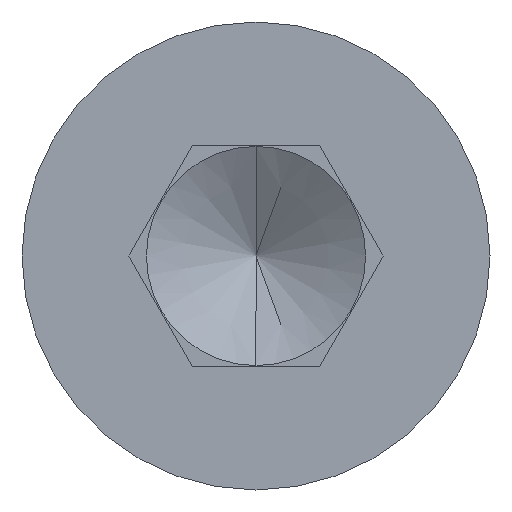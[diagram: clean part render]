
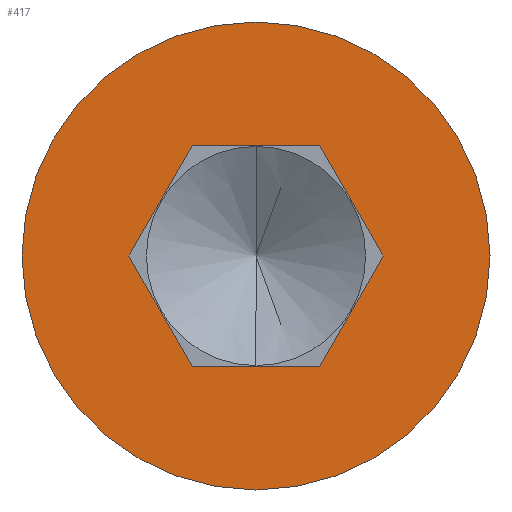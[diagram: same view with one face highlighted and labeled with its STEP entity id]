
A CAD part, left-side view. The second image highlights one B-rep face of the part: STEP entity #417.
In plain terms, the highlighted planar face has unit normal (-1, 0, 0).
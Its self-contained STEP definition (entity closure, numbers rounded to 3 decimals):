
#2 = CARTESIAN_POINT ( 'NONE',  ( -5., -1.155, 2. ) ) ;
#4 = DIRECTION ( 'NONE',  ( 0., 0.5, -0.866 ) ) ;
#5 = VERTEX_POINT ( 'NONE', #86 ) ;
#15 = CARTESIAN_POINT ( 'NONE',  ( -5., 0., 4.25 ) ) ;
#19 = DIRECTION ( 'NONE',  ( 0., -1., 0. ) ) ;
#22 = EDGE_CURVE ( 'NONE', #477, #5, #71, .T. ) ;
#44 = VERTEX_POINT ( 'NONE', #2 ) ;
#49 = ORIENTED_EDGE ( 'NONE', *, *, #538, .T. ) ;
#71 = CIRCLE ( 'NONE', #269, 4.25 ) ;
#75 = AXIS2_PLACEMENT_3D ( 'NONE', #490, #229, #527 ) ;
#86 = CARTESIAN_POINT ( 'NONE',  ( -5., 0., -4.25 ) ) ;
#95 = EDGE_CURVE ( 'NONE', #44, #123, #199, .T. ) ;
#97 = VECTOR ( 'NONE', #267, 1000. ) ;
#100 = CARTESIAN_POINT ( 'NONE',  ( -5., 1.155, -2. ) ) ;
#103 = CARTESIAN_POINT ( 'NONE',  ( -5., 1.155, 2. ) ) ;
#117 = VECTOR ( 'NONE', #150, 1000. ) ;
#118 = CARTESIAN_POINT ( 'NONE',  ( -5., 0., 0. ) ) ;
#123 = VERTEX_POINT ( 'NONE', #367 ) ;
#142 = ORIENTED_EDGE ( 'NONE', *, *, #524, .T. ) ;
#143 = PLANE ( 'NONE',  #75 ) ;
#150 = DIRECTION ( 'NONE',  ( 0., 0.5, 0.866 ) ) ;
#158 = EDGE_CURVE ( 'NONE', #5, #477, #519, .T. ) ;
#164 = DIRECTION ( 'NONE',  ( 0., 0., 1. ) ) ;
#171 = ORIENTED_EDGE ( 'NONE', *, *, #95, .T. ) ;
#177 = CARTESIAN_POINT ( 'NONE',  ( -5., 0., 0. ) ) ;
#193 = ORIENTED_EDGE ( 'NONE', *, *, #158, .F. ) ;
#197 = VECTOR ( 'NONE', #4, 1000. ) ;
#199 = LINE ( 'NONE', #365, #380 ) ;
#219 = DIRECTION ( 'NONE',  ( 0., 0., 1. ) ) ;
#220 = CARTESIAN_POINT ( 'NONE',  ( -5., -2.309, 0. ) ) ;
#223 = CARTESIAN_POINT ( 'NONE',  ( -5., 2.309, 0. ) ) ;
#224 = EDGE_LOOP ( 'NONE', ( #463, #142, #374, #49, #171, #542 ) ) ;
#229 = DIRECTION ( 'NONE',  ( -1., 0., 0. ) ) ;
#233 = VECTOR ( 'NONE', #19, 1000. ) ;
#252 = VERTEX_POINT ( 'NONE', #471 ) ;
#258 = VECTOR ( 'NONE', #442, 1000. ) ;
#267 = DIRECTION ( 'NONE',  ( 0., -0.5, 0.866 ) ) ;
#269 = AXIS2_PLACEMENT_3D ( 'NONE', #177, #480, #219 ) ;
#310 = CARTESIAN_POINT ( 'NONE',  ( -5., 2.125, -2. ) ) ;
#321 = LINE ( 'NONE', #223, #97 ) ;
#353 = LINE ( 'NONE', #446, #233 ) ;
#357 = CARTESIAN_POINT ( 'NONE',  ( -5., 1.155, -2. ) ) ;
#362 = EDGE_CURVE ( 'NONE', #252, #518, #321, .T. ) ;
#365 = CARTESIAN_POINT ( 'NONE',  ( -5., -1.155, 2. ) ) ;
#366 = LINE ( 'NONE', #310, #258 ) ;
#367 = CARTESIAN_POINT ( 'NONE',  ( -5., -2.309, 0. ) ) ;
#371 = EDGE_CURVE ( 'NONE', #123, #539, #541, .T. ) ;
#374 = ORIENTED_EDGE ( 'NONE', *, *, #362, .T. ) ;
#380 = VECTOR ( 'NONE', #459, 1000. ) ;
#387 = ORIENTED_EDGE ( 'NONE', *, *, #22, .F. ) ;
#395 = FACE_OUTER_BOUND ( 'NONE', #439, .T. ) ;
#401 = CARTESIAN_POINT ( 'NONE',  ( -5., -1.155, -2. ) ) ;
#415 = DIRECTION ( 'NONE',  ( 1., 0., 0. ) ) ;
#417 = ADVANCED_FACE ( 'NONE', ( #517, #395 ), #143, .T. ) ;
#425 = VERTEX_POINT ( 'NONE', #100 ) ;
#439 = EDGE_LOOP ( 'NONE', ( #387, #193 ) ) ;
#442 = DIRECTION ( 'NONE',  ( 0., 1., 0. ) ) ;
#446 = CARTESIAN_POINT ( 'NONE',  ( -5., 2.125, 2. ) ) ;
#459 = DIRECTION ( 'NONE',  ( 0., -0.5, -0.866 ) ) ;
#462 = LINE ( 'NONE', #357, #117 ) ;
#463 = ORIENTED_EDGE ( 'NONE', *, *, #465, .T. ) ;
#465 = EDGE_CURVE ( 'NONE', #539, #425, #366, .T. ) ;
#471 = CARTESIAN_POINT ( 'NONE',  ( -5., 2.309, 0. ) ) ;
#477 = VERTEX_POINT ( 'NONE', #15 ) ;
#480 = DIRECTION ( 'NONE',  ( 1., 0., 0. ) ) ;
#490 = CARTESIAN_POINT ( 'NONE',  ( -5., 2.125, 0. ) ) ;
#517 = FACE_BOUND ( 'NONE', #224, .T. ) ;
#518 = VERTEX_POINT ( 'NONE', #103 ) ;
#519 = CIRCLE ( 'NONE', #530, 4.25 ) ;
#524 = EDGE_CURVE ( 'NONE', #425, #252, #462, .T. ) ;
#527 = DIRECTION ( 'NONE',  ( 0., 0., 1. ) ) ;
#530 = AXIS2_PLACEMENT_3D ( 'NONE', #118, #415, #164 ) ;
#538 = EDGE_CURVE ( 'NONE', #518, #44, #353, .T. ) ;
#539 = VERTEX_POINT ( 'NONE', #401 ) ;
#541 = LINE ( 'NONE', #220, #197 ) ;
#542 = ORIENTED_EDGE ( 'NONE', *, *, #371, .T. ) ;
